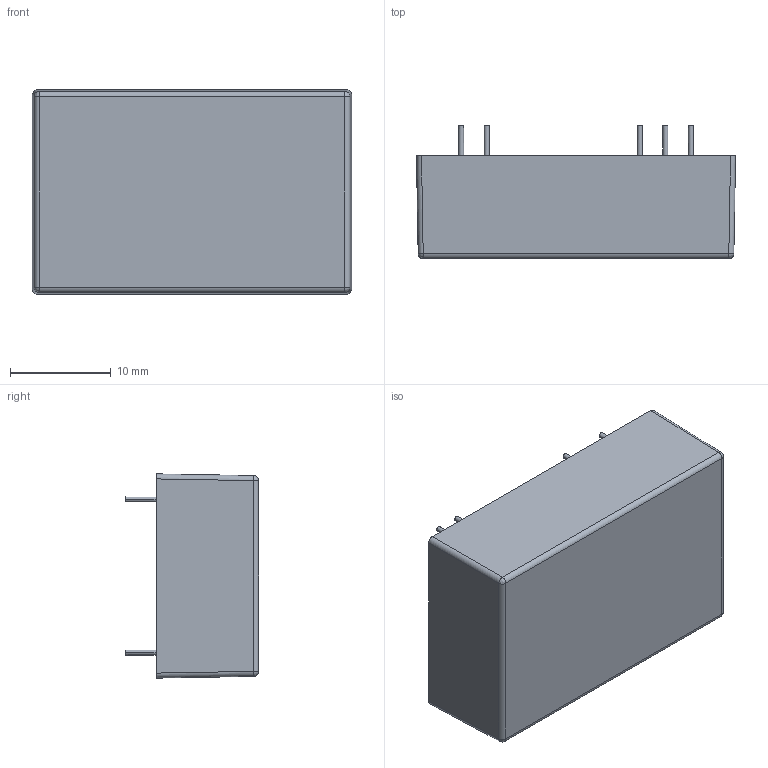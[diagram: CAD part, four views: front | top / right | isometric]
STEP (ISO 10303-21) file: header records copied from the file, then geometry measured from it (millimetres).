
FILE_DESCRIPTION (( 'STEP AP214' ), '1' );
FILE_NAME ('JHM03 06 JHL03 06(D).STEP', '2019-01-09T14:03:31', ( '' ), ( '' ), 'SwSTEP 2.0', 'SolidWorks 2018', '' );
FILE_SCHEMA (( 'AUTOMOTIVE_DESIGN' ));
Length unit declared in the file: inch
Products named in the file (12): A CASE PIN d0.5x10.5mm-1041208(PIN加長)_預設_6; JHM03 06 JHL03 06灌膠口_預設; JHM03 06 JHL03 06 (S) BASE+PIN(有卡勾)(7PIN3.05)_預設; A CASE PIN d0.5x10.5mm-1041208(PIN加長)_預設_7; A CASE PIN d0.5x10.5mm-1041208(PIN加長)_預設_3; 3A 4A BASE(有卡勾)-1040901; A CASE PIN d0.5x10.5mm-1041208(PIN加長)_預設; A CASE PIN d0.5x10.5mm-1041208(PIN加長)_預設_4; CASE A2 H10.2mm(有卡勾)_預設; A CASE PIN d0.5x10.5mm-1041208(PIN加長)_預設_5; JHM03 06 JHL03 06(D); A CASE PIN d0.5x10.5mm-1041208(PIN加長)_預設_2
Assembly tree (13 placements, depth 3):
  JHM03 06 JHL03 06(D)
    JHM03 06 JHL03 06灌膠口_預設
    CASE A2 H10.2mm(有卡勾)_預設
    JHM03 06 JHL03 06 (S) BASE+PIN(有卡勾)(7PIN3.05)_預設
      A CASE PIN d0.5x10.5mm-1041208(PIN加長)_預設_5
      A CASE PIN d0.5x10.5mm-1041208(PIN加長)_預設
      A CASE PIN d0.5x10.5mm-1041208(PIN加長)_預設_6
      A CASE PIN d0.5x10.5mm-1041208(PIN加長)_預設_2
      A CASE PIN d0.5x10.5mm-1041208(PIN加長)_預設_4
      3A 4A BASE(有卡勾)-1040901
      A CASE PIN d0.5x10.5mm-1041208(PIN加長)_預設_3
      A CASE PIN d0.5x10.5mm-1041208(PIN加長)_預設_7
    A CASE PIN d0.5x10.5mm-1041208(PIN加長)_預設_6  x2
Bounding box: 31.75 x 13.25 x 20.32 mm (x, y, z)
Volume: 1678.3 mm3; surface area: 4781.6 mm2
Topology: 12 solids, 12 shells, 1001 faces, 2588 edges, 1636 vertices
Faces by surface type: plane 537, cylinder 372, bspline 92
Entity records: 44523 total; most frequent: CARTESIAN_POINT 10946, ORIENTED_EDGE 4564, DIRECTION 4482, EDGE_CURVE 2282, AXIS2_PLACEMENT_3D 1584, VERTEX_POINT 1448, LINE 1314, VECTOR 1314
